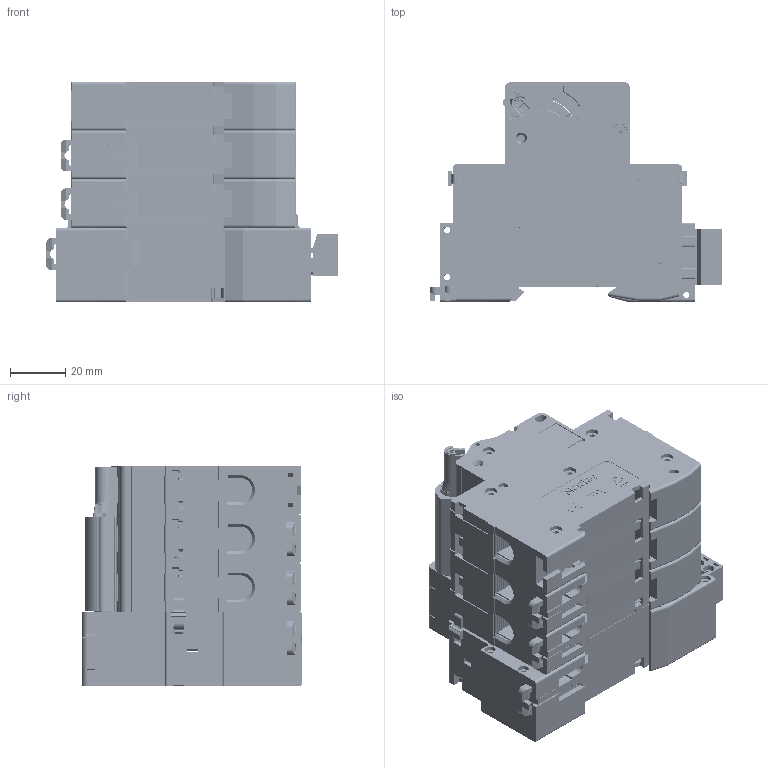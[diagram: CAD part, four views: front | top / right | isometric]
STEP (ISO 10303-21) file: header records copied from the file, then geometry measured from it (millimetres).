
FILE_DESCRIPTION (( 'STEP AP214' ), '1' );
FILE_NAME ('NDB2-63 3P+Tm2.STEP', '2022-10-20T01:55:12', ( '' ), ( '' ), 'SwSTEP 2.0', 'SolidWorks 2018', '' );
FILE_SCHEMA (( 'AUTOMOTIVE_DESIGN' ));
Length unit declared in the file: millimetre
Products named in the file (17): 8LD.253.172.STEP; 8LD.516.164.STEP; 8LD.024.137.STEP; 8LD.516.163.STEP; 1p-1.STEP; 8LD.039.100.STEP; NDB2-63 3p.STEP; 8LD.253.129.STEP; 8LD.143.115.STEP; 5LD.574.103.STEP; 8LD.315.141.STEP; 8LD.315.140.STEP; 8LD.516.135.STEP; Tm2 4P; 8LD.907.115.STEP; 1p.STEP; NDB2-63 3P+Tm2
Assembly tree (29 placements, depth 5):
  NDB2-63 3P+Tm2
    NDB2-63 3p.STEP
      1p.STEP
        5LD.574.103.STEP  x2
          8LD.516.135.STEP
          8LD.907.115.STEP
        8LD.024.137.STEP
        8LD.253.129.STEP
        8LD.315.140.STEP
        8LD.315.141.STEP  x2
        8LD.516.163.STEP
        8LD.516.164.STEP
        8LD.039.100.STEP
      1p-1.STEP  x2
        5LD.574.103.STEP
          8LD.516.135.STEP
          8LD.907.115.STEP
        8LD.024.137.STEP
        8LD.253.129.STEP
        8LD.143.115.STEP
        8LD.315.140.STEP
        8LD.315.141.STEP
        8LD.516.163.STEP
        8LD.516.164.STEP
        8LD.039.100.STEP
      8LD.253.172.STEP
    Tm2 4P
Bounding box: 105.49 x 79.5 x 79.7 mm (x, y, z)
Volume: 284643.9 mm3; surface area: 213729.6 mm2
Topology: 66 solids, 90 shells, 12618 faces, 35268 edges, 23141 vertices
Faces by surface type: plane 7539, cylinder 3694, cone 838, bspline 460, torus 63, sphere 24
Entity records: 231423 total; most frequent: CARTESIAN_POINT 60227, ORIENTED_EDGE 31398, DIRECTION 28638, EDGE_CURVE 15699, LINE 10878, VECTOR 10878, VERTEX_POINT 10311, AXIS2_PLACEMENT_3D 8880
